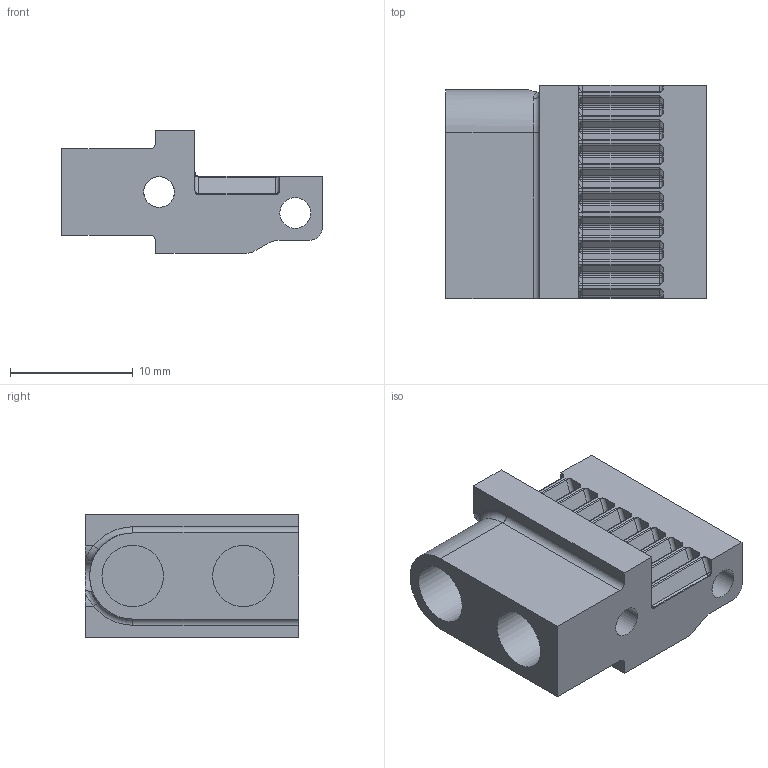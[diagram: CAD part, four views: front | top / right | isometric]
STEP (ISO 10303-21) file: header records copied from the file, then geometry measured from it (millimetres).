
FILE_DESCRIPTION(/* description */ ('STEP AP242 Edition 2','CAx-IF Rec.Pracs.---Representation and Presentation of Product Manufacturing Information (PMI)---4.0---2014-10-13','CAx-IF Rec.Pracs.---3D Tessellated Geometry---0.4---2014-09-14','2;1','CAx-IF Rec.Pracs.---User Defined Attributes---1.5---2016-08-15'),/* implementation_level */ '2;1');
FILE_NAME(/* name */ 'bb_v3 - carriage',/* time_stamp */ '2026-05-01T07:59:50Z',/* author */ (''),/* organization */ (''),/* preprocessor_version */ 'ST-DEVELOPER v20',/* originating_system */ 'ONSHAPE BY PTC INC, 1.214',/* authorisation */ ' ');
FILE_SCHEMA (('AP242_MANAGED_MODEL_BASED_3D_ENGINEERING_MIM_LF { 1 0 10303 442 3 1 4 }'));
Length unit declared in the file: metre
Products named in the file (1): carriage
Bounding box: 21.19 x 17.34 x 10 mm (x, y, z)
Volume: 2000.9 mm3; surface area: 1840.7 mm2
Topology: 1 solids, 1 shells, 240 faces, 583 edges, 312 vertices
Faces by surface type: cylinder 111, plane 53, bspline 38, torus 38
Full cylindrical faces by diameter (mm): 2.5 x2, 5 x2
Entity records: 7069 total; most frequent: CARTESIAN_POINT 1768, DIRECTION 1148, ORIENTED_EDGE 1088, EDGE_CURVE 544, AXIS2_PLACEMENT_3D 448, VERTEX_POINT 311, LINE 252, VECTOR 252
